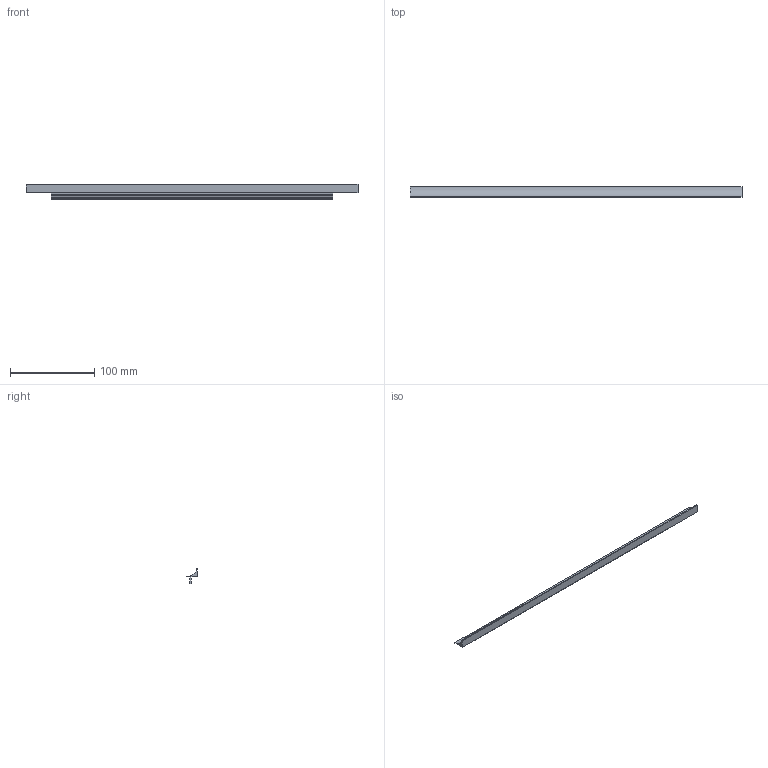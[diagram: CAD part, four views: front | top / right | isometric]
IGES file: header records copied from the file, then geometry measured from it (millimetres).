
Start section: Data from Parasolid IGES Translator 20.0.26, Copyright(c) 2006 Siemens P LM Software. All Rights Reserved.
Global section: file name: 9208090.igs; native system: By Siemens PLM Incorporated; preprocessor: XPlus GENERIC/IGES 20.0.26; author: Noname; organization: Noname; date: 20230313.143032; units: millimetre
Bounding box: 395 x 12.5 x 18 mm (x, y, z)
Surface area: 22501.3 mm2 (no closed solid volume)
Topology: 0 solids, 0 shells, 29 faces, 156 edges, 156 vertices
Faces by surface type: extrusion 25, revolution 4
